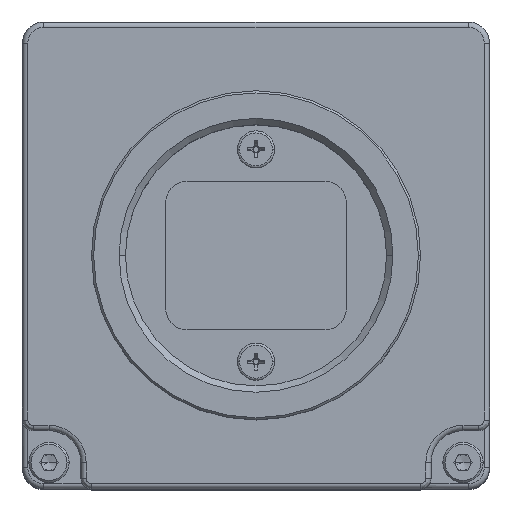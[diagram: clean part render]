
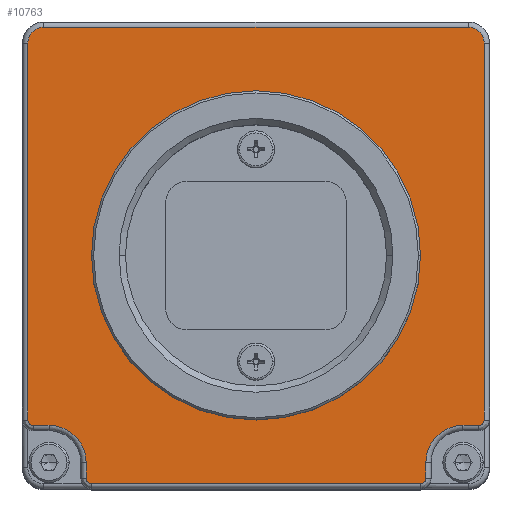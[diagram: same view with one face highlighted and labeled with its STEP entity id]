
A CAD part, top view. The second image highlights one B-rep face of the part: STEP entity #10763.
In plain terms, the highlighted planar face has unit normal (0, 0, 1).
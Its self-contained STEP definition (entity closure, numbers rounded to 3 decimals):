
#976=CARTESIAN_POINT('',(-20.,20.,54.));
#977=DIRECTION('',(0.,0.,1.));
#978=DIRECTION('',(0.,1.,0.));
#979=AXIS2_PLACEMENT_3D('',#976,#977,#978);
#981=CARTESIAN_POINT('',(20.,20.,54.));
#982=DIRECTION('',(0.,0.,1.));
#983=DIRECTION('',(1.,0.,0.));
#984=AXIS2_PLACEMENT_3D('',#981,#982,#983);
#986=CARTESIAN_POINT('',(21.,-15.5,54.));
#987=DIRECTION('',(0.,0.,1.));
#988=DIRECTION('',(0.,-1.,0.));
#989=AXIS2_PLACEMENT_3D('',#986,#987,#988);
#991=CARTESIAN_POINT('',(19.5,-19.5,54.));
#992=DIRECTION('',(0.,0.,-1.));
#993=DIRECTION('',(-1.,0.,0.));
#994=AXIS2_PLACEMENT_3D('',#991,#992,#993);
#996=CARTESIAN_POINT('',(15.5,-21.,54.));
#997=DIRECTION('',(0.,0.,1.));
#998=DIRECTION('',(0.,-1.,0.));
#999=AXIS2_PLACEMENT_3D('',#996,#997,#998);
#1001=CARTESIAN_POINT('',(-15.5,-21.,54.));
#1002=DIRECTION('',(0.,0.,1.));
#1003=DIRECTION('',(-1.,0.,0.));
#1004=AXIS2_PLACEMENT_3D('',#1001,#1002,#1003);
#1006=CARTESIAN_POINT('',(-19.5,-19.5,54.));
#1007=DIRECTION('',(0.,0.,-1.));
#1008=DIRECTION('',(0.,1.,0.));
#1009=AXIS2_PLACEMENT_3D('',#1006,#1007,#1008);
#1011=CARTESIAN_POINT('',(-21.,-15.5,54.));
#1012=DIRECTION('',(0.,0.,1.));
#1013=DIRECTION('',(-1.,0.,0.));
#1014=AXIS2_PLACEMENT_3D('',#1011,#1012,#1013);
#1016=CARTESIAN_POINT('',(0.,0.,54.));
#1017=DIRECTION('',(0.,0.,-1.));
#1018=DIRECTION('',(-1.,0.,0.));
#1019=AXIS2_PLACEMENT_3D('',#1016,#1017,#1018);
#1021=CARTESIAN_POINT('',(0.,0.,54.));
#1022=DIRECTION('',(0.,0.,-1.));
#1023=DIRECTION('',(1.,0.,0.));
#1024=AXIS2_PLACEMENT_3D('',#1021,#1022,#1023);
#1041=DIRECTION('',(0.,-1.,0.));
#1042=VECTOR('',#1041,35.5);
#1043=CARTESIAN_POINT('',(-21.5,20.,54.));
#1044=LINE('',#1043,#1042);
#1064=DIRECTION('',(1.,0.,0.));
#1065=VECTOR('',#1064,1.5);
#1066=CARTESIAN_POINT('',(-21.,-16.,54.));
#1067=LINE('',#1066,#1065);
#1087=DIRECTION('',(0.,-1.,0.));
#1088=VECTOR('',#1087,1.5);
#1089=CARTESIAN_POINT('',(-16.,-19.5,54.));
#1090=LINE('',#1089,#1088);
#1110=DIRECTION('',(1.,0.,0.));
#1111=VECTOR('',#1110,31.);
#1112=CARTESIAN_POINT('',(-15.5,-21.5,54.));
#1113=LINE('',#1112,#1111);
#1133=DIRECTION('',(0.,1.,0.));
#1134=VECTOR('',#1133,1.5);
#1135=CARTESIAN_POINT('',(16.,-21.,54.));
#1136=LINE('',#1135,#1134);
#1156=DIRECTION('',(1.,0.,0.));
#1157=VECTOR('',#1156,1.5);
#1158=CARTESIAN_POINT('',(19.5,-16.,54.));
#1159=LINE('',#1158,#1157);
#1179=DIRECTION('',(0.,1.,0.));
#1180=VECTOR('',#1179,35.5);
#1181=CARTESIAN_POINT('',(21.5,-15.5,54.));
#1182=LINE('',#1181,#1180);
#1469=DIRECTION('',(-1.,0.,0.));
#1470=VECTOR('',#1469,40.);
#1471=CARTESIAN_POINT('',(20.,21.5,54.));
#1472=LINE('',#1471,#1470);
#8398=CARTESIAN_POINT('',(21.5,20.,54.));
#8399=CARTESIAN_POINT('',(20.,21.5,54.));
#8400=VERTEX_POINT('',#8398);
#8401=VERTEX_POINT('',#8399);
#8402=CARTESIAN_POINT('',(-20.,21.5,54.));
#8403=CARTESIAN_POINT('',(-21.5,20.,54.));
#8404=VERTEX_POINT('',#8402);
#8405=VERTEX_POINT('',#8403);
#8406=CARTESIAN_POINT('',(21.5,-15.5,54.));
#8407=VERTEX_POINT('',#8406);
#8408=CARTESIAN_POINT('',(21.,-16.,54.));
#8409=VERTEX_POINT('',#8408);
#8410=CARTESIAN_POINT('',(19.5,-16.,54.));
#8411=VERTEX_POINT('',#8410);
#8412=CARTESIAN_POINT('',(16.,-19.5,54.));
#8413=VERTEX_POINT('',#8412);
#8414=CARTESIAN_POINT('',(16.,-21.,54.));
#8415=VERTEX_POINT('',#8414);
#8416=CARTESIAN_POINT('',(15.5,-21.5,54.));
#8417=VERTEX_POINT('',#8416);
#8418=CARTESIAN_POINT('',(-15.5,-21.5,54.));
#8419=VERTEX_POINT('',#8418);
#8420=CARTESIAN_POINT('',(-16.,-21.,54.));
#8421=VERTEX_POINT('',#8420);
#8422=CARTESIAN_POINT('',(-16.,-19.5,54.));
#8423=VERTEX_POINT('',#8422);
#8424=CARTESIAN_POINT('',(-19.5,-16.,54.));
#8425=VERTEX_POINT('',#8424);
#8426=CARTESIAN_POINT('',(-21.,-16.,54.));
#8427=VERTEX_POINT('',#8426);
#8428=CARTESIAN_POINT('',(-21.5,-15.5,54.));
#8429=VERTEX_POINT('',#8428);
#8430=CARTESIAN_POINT('',(-15.5,0.,54.));
#8431=CARTESIAN_POINT('',(15.5,0.,54.));
#8432=VERTEX_POINT('',#8430);
#8433=VERTEX_POINT('',#8431);
#10719=CARTESIAN_POINT('',(0.,0.,54.));
#10720=DIRECTION('',(0.,0.,1.));
#10721=DIRECTION('',(1.,0.,0.));
#10722=AXIS2_PLACEMENT_3D('',#10719,#10720,#10721);
#10723=PLANE('',#10722);
#10725=ORIENTED_EDGE('',*,*,#10724,.F.);
#10727=ORIENTED_EDGE('',*,*,#10726,.F.);
#10728=ORIENTED_EDGE('',*,*,#10702,.F.);
#10730=ORIENTED_EDGE('',*,*,#10729,.F.);
#10732=ORIENTED_EDGE('',*,*,#10731,.F.);
#10734=ORIENTED_EDGE('',*,*,#10733,.F.);
#10736=ORIENTED_EDGE('',*,*,#10735,.F.);
#10738=ORIENTED_EDGE('',*,*,#10737,.F.);
#10740=ORIENTED_EDGE('',*,*,#10739,.F.);
#10742=ORIENTED_EDGE('',*,*,#10741,.F.);
#10744=ORIENTED_EDGE('',*,*,#10743,.F.);
#10746=ORIENTED_EDGE('',*,*,#10745,.F.);
#10748=ORIENTED_EDGE('',*,*,#10747,.F.);
#10750=ORIENTED_EDGE('',*,*,#10749,.F.);
#10752=ORIENTED_EDGE('',*,*,#10751,.F.);
#10754=ORIENTED_EDGE('',*,*,#10753,.F.);
#10755=EDGE_LOOP('',(#10725,#10727,#10728,#10730,#10732,#10734,#10736,#10738,
#10740,#10742,#10744,#10746,#10748,#10750,#10752,#10754));
#10756=FACE_OUTER_BOUND('',#10755,.F.);
#10758=ORIENTED_EDGE('',*,*,#10757,.F.);
#10760=ORIENTED_EDGE('',*,*,#10759,.F.);
#10761=EDGE_LOOP('',(#10758,#10760));
#10762=FACE_BOUND('',#10761,.F.);
#980=CIRCLE('',#979,1.5);
#985=CIRCLE('',#984,1.5);
#990=CIRCLE('',#989,0.5);
#995=CIRCLE('',#994,3.5);
#1000=CIRCLE('',#999,0.5);
#1005=CIRCLE('',#1004,0.5);
#1010=CIRCLE('',#1009,3.5);
#1015=CIRCLE('',#1014,0.5);
#1020=CIRCLE('',#1019,15.5);
#1025=CIRCLE('',#1024,15.5);
#10702=EDGE_CURVE('',#8400,#8401,#985,.T.);
#10724=EDGE_CURVE('',#8404,#8405,#980,.T.);
#10726=EDGE_CURVE('',#8401,#8404,#1472,.T.);
#10729=EDGE_CURVE('',#8407,#8400,#1182,.T.);
#10731=EDGE_CURVE('',#8409,#8407,#990,.T.);
#10733=EDGE_CURVE('',#8411,#8409,#1159,.T.);
#10735=EDGE_CURVE('',#8413,#8411,#995,.T.);
#10737=EDGE_CURVE('',#8415,#8413,#1136,.T.);
#10739=EDGE_CURVE('',#8417,#8415,#1000,.T.);
#10741=EDGE_CURVE('',#8419,#8417,#1113,.T.);
#10743=EDGE_CURVE('',#8421,#8419,#1005,.T.);
#10745=EDGE_CURVE('',#8423,#8421,#1090,.T.);
#10747=EDGE_CURVE('',#8425,#8423,#1010,.T.);
#10749=EDGE_CURVE('',#8427,#8425,#1067,.T.);
#10751=EDGE_CURVE('',#8429,#8427,#1015,.T.);
#10753=EDGE_CURVE('',#8405,#8429,#1044,.T.);
#10757=EDGE_CURVE('',#8432,#8433,#1020,.T.);
#10759=EDGE_CURVE('',#8433,#8432,#1025,.T.);
#10763=ADVANCED_FACE('',(#10756,#10762),#10723,.T.);
